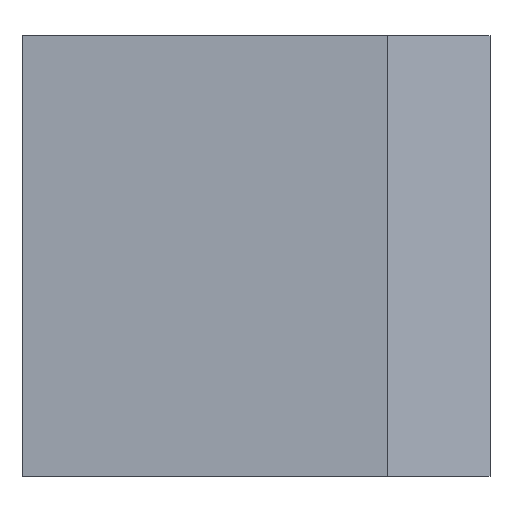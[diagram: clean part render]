
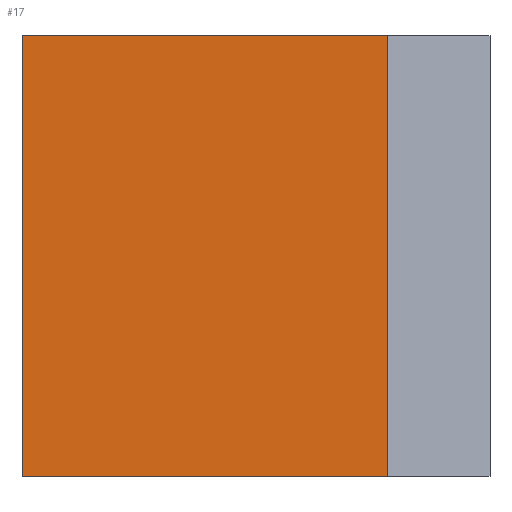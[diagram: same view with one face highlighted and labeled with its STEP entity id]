
A CAD part, left-side view. The second image highlights one B-rep face of the part: STEP entity #17.
In plain terms, the highlighted planar face has unit normal (-1, 0, 0).
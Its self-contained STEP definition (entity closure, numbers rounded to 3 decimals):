
#17 = ADVANCED_FACE('',(#18),#32,.F.);
#18 = FACE_BOUND('',#19,.T.);
#19 = EDGE_LOOP('',(#20,#55,#83,#111));
#20 = ORIENTED_EDGE('',*,*,#21,.T.);
#21 = EDGE_CURVE('',#22,#24,#26,.T.);
#22 = VERTEX_POINT('',#23);
#23 = CARTESIAN_POINT('',(95.,23.235,-6.5));
#24 = VERTEX_POINT('',#25);
#25 = CARTESIAN_POINT('',(95.,23.235,6.5));
#26 = SURFACE_CURVE('',#27,(#31,#43),.PCURVE_S1.);
#27 = LINE('',#28,#29);
#28 = CARTESIAN_POINT('',(95.,23.235,-6.5));
#29 = VECTOR('',#30,1.);
#30 = DIRECTION('',(-0.,-0.,1.));
#31 = PCURVE('',#32,#37);
#32 = PLANE('',#33);
#33 = AXIS2_PLACEMENT_3D('',#34,#35,#36);
#34 = CARTESIAN_POINT('',(95.,23.235,-6.5));
#35 = DIRECTION('',(1.,-0.,-0.));
#36 = DIRECTION('',(0.,-1.,0.));
#37 = DEFINITIONAL_REPRESENTATION('',(#38),#42);
#38 = LINE('',#39,#40);
#39 = CARTESIAN_POINT('',(-0.,0.));
#40 = VECTOR('',#41,1.);
#41 = DIRECTION('',(-0.,-1.));
#42 = ( GEOMETRIC_REPRESENTATION_CONTEXT(2) 
PARAMETRIC_REPRESENTATION_CONTEXT() REPRESENTATION_CONTEXT('2D SPACE',''
  ) );
#43 = PCURVE('',#44,#49);
#44 = PLANE('',#45);
#45 = AXIS2_PLACEMENT_3D('',#46,#47,#48);
#46 = CARTESIAN_POINT('',(97.,20.2,-6.5));
#47 = DIRECTION('',(0.835,0.55,-0.));
#48 = DIRECTION('',(0.55,-0.835,-0.));
#49 = DEFINITIONAL_REPRESENTATION('',(#50),#54);
#50 = LINE('',#51,#52);
#51 = CARTESIAN_POINT('',(-3.635,-0.));
#52 = VECTOR('',#53,1.);
#53 = DIRECTION('',(-0.,-1.));
#54 = ( GEOMETRIC_REPRESENTATION_CONTEXT(2) 
PARAMETRIC_REPRESENTATION_CONTEXT() REPRESENTATION_CONTEXT('2D SPACE',''
  ) );
#55 = ORIENTED_EDGE('',*,*,#56,.T.);
#56 = EDGE_CURVE('',#24,#57,#59,.T.);
#57 = VERTEX_POINT('',#58);
#58 = CARTESIAN_POINT('',(95.,34.,6.5));
#59 = SURFACE_CURVE('',#60,(#64,#71),.PCURVE_S1.);
#60 = LINE('',#61,#62);
#61 = CARTESIAN_POINT('',(95.,23.235,6.5));
#62 = VECTOR('',#63,1.);
#63 = DIRECTION('',(-0.,1.,-0.));
#64 = PCURVE('',#32,#65);
#65 = DEFINITIONAL_REPRESENTATION('',(#66),#70);
#66 = LINE('',#67,#68);
#67 = CARTESIAN_POINT('',(-0.,-13.));
#68 = VECTOR('',#69,1.);
#69 = DIRECTION('',(-1.,-0.));
#70 = ( GEOMETRIC_REPRESENTATION_CONTEXT(2) 
PARAMETRIC_REPRESENTATION_CONTEXT() REPRESENTATION_CONTEXT('2D SPACE',''
  ) );
#71 = PCURVE('',#72,#77);
#72 = PLANE('',#73);
#73 = AXIS2_PLACEMENT_3D('',#74,#75,#76);
#74 = CARTESIAN_POINT('',(96.867,26.641,6.5));
#75 = DIRECTION('',(-0.,-0.,1.));
#76 = DIRECTION('',(-1.,0.,0.));
#77 = DEFINITIONAL_REPRESENTATION('',(#78),#82);
#78 = LINE('',#79,#80);
#79 = CARTESIAN_POINT('',(1.867,3.406));
#80 = VECTOR('',#81,1.);
#81 = DIRECTION('',(-0.,-1.));
#82 = ( GEOMETRIC_REPRESENTATION_CONTEXT(2) 
PARAMETRIC_REPRESENTATION_CONTEXT() REPRESENTATION_CONTEXT('2D SPACE',''
  ) );
#83 = ORIENTED_EDGE('',*,*,#84,.F.);
#84 = EDGE_CURVE('',#85,#57,#87,.T.);
#85 = VERTEX_POINT('',#86);
#86 = CARTESIAN_POINT('',(95.,34.,-6.5));
#87 = SURFACE_CURVE('',#88,(#92,#99),.PCURVE_S1.);
#88 = LINE('',#89,#90);
#89 = CARTESIAN_POINT('',(95.,34.,-6.5));
#90 = VECTOR('',#91,1.);
#91 = DIRECTION('',(-0.,-0.,1.));
#92 = PCURVE('',#32,#93);
#93 = DEFINITIONAL_REPRESENTATION('',(#94),#98);
#94 = LINE('',#95,#96);
#95 = CARTESIAN_POINT('',(-10.765,0.));
#96 = VECTOR('',#97,1.);
#97 = DIRECTION('',(-0.,-1.));
#98 = ( GEOMETRIC_REPRESENTATION_CONTEXT(2) 
PARAMETRIC_REPRESENTATION_CONTEXT() REPRESENTATION_CONTEXT('2D SPACE',''
  ) );
#99 = PCURVE('',#100,#105);
#100 = PLANE('',#101);
#101 = AXIS2_PLACEMENT_3D('',#102,#103,#104);
#102 = CARTESIAN_POINT('',(95.,34.,-6.5));
#103 = DIRECTION('',(-0.,-1.,-0.));
#104 = DIRECTION('',(-1.,0.,0.));
#105 = DEFINITIONAL_REPRESENTATION('',(#106),#110);
#106 = LINE('',#107,#108);
#107 = CARTESIAN_POINT('',(-0.,-0.));
#108 = VECTOR('',#109,1.);
#109 = DIRECTION('',(-0.,-1.));
#110 = ( GEOMETRIC_REPRESENTATION_CONTEXT(2) 
PARAMETRIC_REPRESENTATION_CONTEXT() REPRESENTATION_CONTEXT('2D SPACE',''
  ) );
#111 = ORIENTED_EDGE('',*,*,#112,.F.);
#112 = EDGE_CURVE('',#22,#85,#113,.T.);
#113 = SURFACE_CURVE('',#114,(#118,#125),.PCURVE_S1.);
#114 = LINE('',#115,#116);
#115 = CARTESIAN_POINT('',(95.,23.235,-6.5));
#116 = VECTOR('',#117,1.);
#117 = DIRECTION('',(-0.,1.,-0.));
#118 = PCURVE('',#32,#119);
#119 = DEFINITIONAL_REPRESENTATION('',(#120),#124);
#120 = LINE('',#121,#122);
#121 = CARTESIAN_POINT('',(-0.,0.));
#122 = VECTOR('',#123,1.);
#123 = DIRECTION('',(-1.,-0.));
#124 = ( GEOMETRIC_REPRESENTATION_CONTEXT(2) 
PARAMETRIC_REPRESENTATION_CONTEXT() REPRESENTATION_CONTEXT('2D SPACE',''
  ) );
#125 = PCURVE('',#126,#131);
#126 = PLANE('',#127);
#127 = AXIS2_PLACEMENT_3D('',#128,#129,#130);
#128 = CARTESIAN_POINT('',(96.867,26.641,-6.5));
#129 = DIRECTION('',(-0.,-0.,1.));
#130 = DIRECTION('',(-1.,0.,0.));
#131 = DEFINITIONAL_REPRESENTATION('',(#132),#136);
#132 = LINE('',#133,#134);
#133 = CARTESIAN_POINT('',(1.867,3.406));
#134 = VECTOR('',#135,1.);
#135 = DIRECTION('',(-0.,-1.));
#136 = ( GEOMETRIC_REPRESENTATION_CONTEXT(2) 
PARAMETRIC_REPRESENTATION_CONTEXT() REPRESENTATION_CONTEXT('2D SPACE',''
  ) );
